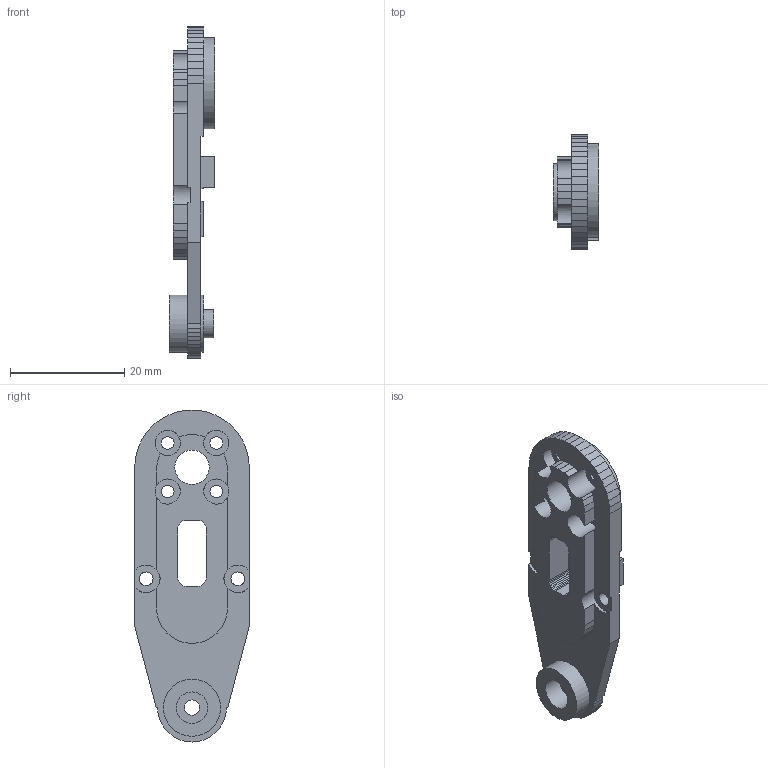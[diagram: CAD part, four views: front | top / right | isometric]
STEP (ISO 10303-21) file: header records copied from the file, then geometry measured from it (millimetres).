
FILE_DESCRIPTION(('FreeCAD Model'),'2;1');
FILE_NAME('Open CASCADE Shape Model','2026-09-09T20:58:31',('Author'),( ''),'Open CASCADE STEP processor 7.8','FreeCAD','Unknown');
FILE_SCHEMA(('AUTOMOTIVE_DESIGN { 1 0 10303 214 1 1 1 1 }'));
Length unit declared in the file: millimetre
Products named in the file (1): microduck-shin
Bounding box: 7.95 x 20 x 58 mm (x, y, z)
Volume: 3385.1 mm3; surface area: 3400.3 mm2
Topology: 1 solids, 1 shells, 191 faces, 550 edges, 368 vertices
Faces by surface type: plane 171, cylinder 20
Full cylindrical faces by diameter (mm): 2.2 x4, 2.4 x2, 2.7 x1, 4.4 x4, 4.92 x1, 5.5 x1, 6 x1, 8 x1, 10 x2, 15.9 x1
Entity records: 6246 total; most frequent: CARTESIAN_POINT 1110, ORIENTED_EDGE 1100, DIRECTION 998, EDGE_CURVE 550, LINE 486, VECTOR 486, VERTEX_POINT 368, AXIS2_PLACEMENT_3D 256
